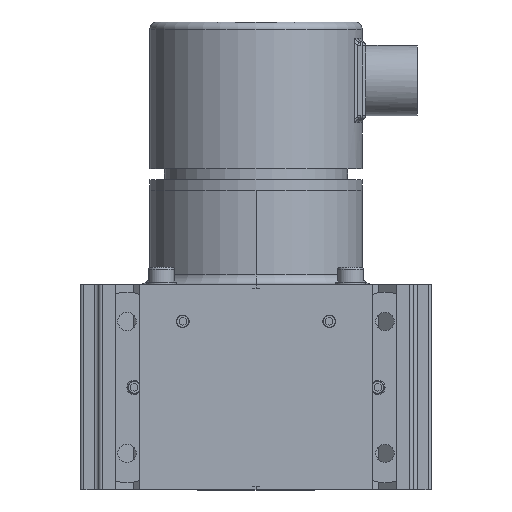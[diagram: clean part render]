
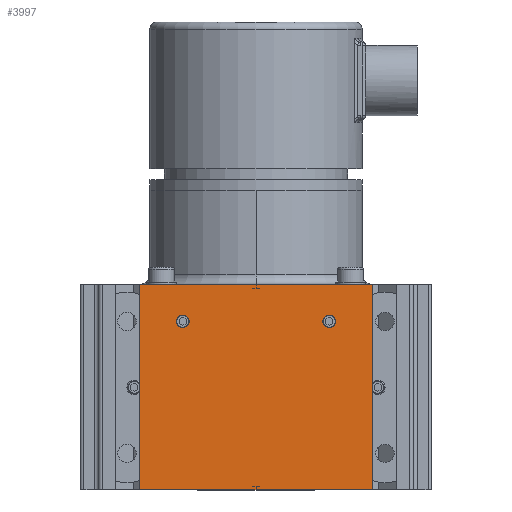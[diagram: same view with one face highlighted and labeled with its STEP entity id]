
A CAD part, front view. The second image highlights one B-rep face of the part: STEP entity #3997.
In plain terms, the highlighted planar face has unit normal (0, -1, 0).
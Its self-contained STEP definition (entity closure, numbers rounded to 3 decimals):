
#163=DIRECTION('',(1.,0.,0.));
#164=VECTOR('',#163,63.5);
#165=CARTESIAN_POINT('',(-31.75,-48.,0.));
#166=LINE('',#165,#164);
#716=DIRECTION('',(1.,0.,0.));
#717=VECTOR('',#716,63.5);
#718=CARTESIAN_POINT('',(-31.75,-48.,56.));
#719=LINE('',#718,#717);
#1320=DIRECTION('',(0.,0.,1.));
#1321=VECTOR('',#1320,56.);
#1322=CARTESIAN_POINT('',(31.75,-48.,0.));
#1323=LINE('',#1322,#1321);
#1324=DIRECTION('',(0.,0.,1.));
#1325=VECTOR('',#1324,56.);
#1326=CARTESIAN_POINT('',(-31.75,-48.,0.));
#1327=LINE('',#1326,#1325);
#1328=CARTESIAN_POINT('',(20.,-48.,46.));
#1329=DIRECTION('',(0.,1.,0.));
#1330=DIRECTION('',(1.,0.,0.));
#1331=AXIS2_PLACEMENT_3D('',#1328,#1329,#1330);
#1333=CARTESIAN_POINT('',(20.,-48.,46.));
#1334=DIRECTION('',(0.,1.,0.));
#1335=DIRECTION('',(-1.,0.,0.));
#1336=AXIS2_PLACEMENT_3D('',#1333,#1334,#1335);
#1338=CARTESIAN_POINT('',(-20.,-48.,46.));
#1339=DIRECTION('',(0.,1.,0.));
#1340=DIRECTION('',(1.,0.,0.));
#1341=AXIS2_PLACEMENT_3D('',#1338,#1339,#1340);
#1343=CARTESIAN_POINT('',(-20.,-48.,46.));
#1344=DIRECTION('',(0.,1.,0.));
#1345=DIRECTION('',(-1.,0.,0.));
#1346=AXIS2_PLACEMENT_3D('',#1343,#1344,#1345);
#2216=CARTESIAN_POINT('',(-31.75,-48.,0.));
#2217=VERTEX_POINT('',#2216);
#2218=CARTESIAN_POINT('',(31.75,-48.,0.));
#2219=VERTEX_POINT('',#2218);
#2352=CARTESIAN_POINT('',(-31.75,-48.,56.));
#2353=VERTEX_POINT('',#2352);
#2354=CARTESIAN_POINT('',(31.75,-48.,56.));
#2355=VERTEX_POINT('',#2354);
#2446=CARTESIAN_POINT('',(21.75,-48.,46.));
#2447=CARTESIAN_POINT('',(18.25,-48.,46.));
#2448=VERTEX_POINT('',#2446);
#2449=VERTEX_POINT('',#2447);
#2450=CARTESIAN_POINT('',(-18.25,-48.,46.));
#2451=CARTESIAN_POINT('',(-21.75,-48.,46.));
#2452=VERTEX_POINT('',#2450);
#2453=VERTEX_POINT('',#2451);
#3973=CARTESIAN_POINT('',(-31.75,-48.,0.));
#3974=DIRECTION('',(0.,-1.,0.));
#3975=DIRECTION('',(1.,0.,0.));
#3976=AXIS2_PLACEMENT_3D('',#3973,#3974,#3975);
#3977=PLANE('',#3976);
#3978=ORIENTED_EDGE('',*,*,#2625,.F.);
#3980=ORIENTED_EDGE('',*,*,#3979,.T.);
#3981=ORIENTED_EDGE('',*,*,#2952,.T.);
#3982=ORIENTED_EDGE('',*,*,#3966,.F.);
#3983=EDGE_LOOP('',(#3978,#3980,#3981,#3982));
#3984=FACE_OUTER_BOUND('',#3983,.F.);
#3986=ORIENTED_EDGE('',*,*,#3985,.F.);
#3988=ORIENTED_EDGE('',*,*,#3987,.F.);
#3989=EDGE_LOOP('',(#3986,#3988));
#3990=FACE_BOUND('',#3989,.F.);
#3992=ORIENTED_EDGE('',*,*,#3991,.F.);
#3994=ORIENTED_EDGE('',*,*,#3993,.F.);
#3995=EDGE_LOOP('',(#3992,#3994));
#3996=FACE_BOUND('',#3995,.F.);
#3997=ADVANCED_FACE('',(#3984,#3990,#3996),#3977,.T.);
#1332=CIRCLE('',#1331,1.75);
#1337=CIRCLE('',#1336,1.75);
#1342=CIRCLE('',#1341,1.75);
#1347=CIRCLE('',#1346,1.75);
#2625=EDGE_CURVE('',#2217,#2219,#166,.T.);
#2952=EDGE_CURVE('',#2353,#2355,#719,.T.);
#3966=EDGE_CURVE('',#2219,#2355,#1323,.T.);
#3979=EDGE_CURVE('',#2217,#2353,#1327,.T.);
#3985=EDGE_CURVE('',#2448,#2449,#1332,.T.);
#3987=EDGE_CURVE('',#2449,#2448,#1337,.T.);
#3991=EDGE_CURVE('',#2452,#2453,#1342,.T.);
#3993=EDGE_CURVE('',#2453,#2452,#1347,.T.);
